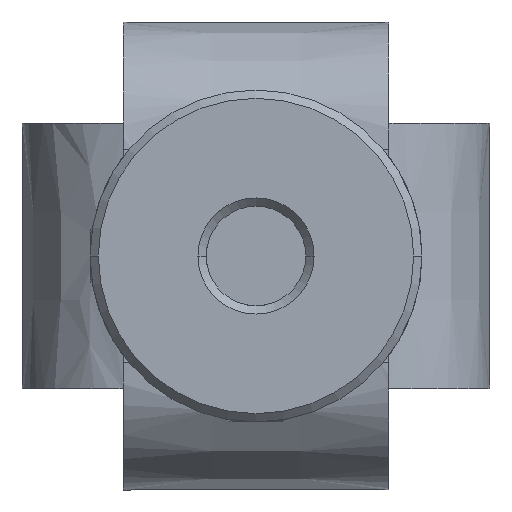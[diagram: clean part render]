
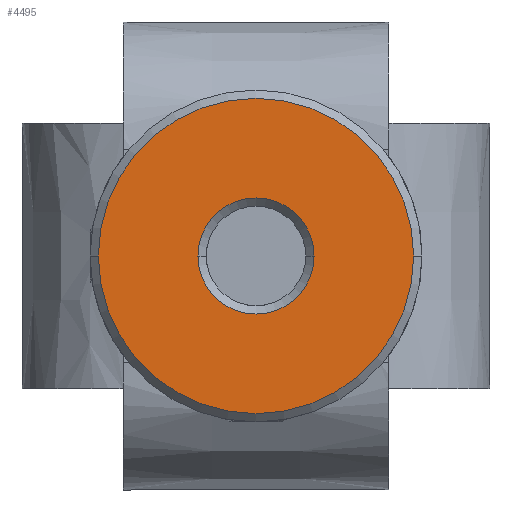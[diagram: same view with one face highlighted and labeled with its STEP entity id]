
A CAD part, front view. The second image highlights one B-rep face of the part: STEP entity #4495.
In plain terms, the highlighted planar face has unit normal (0, -1, 0).
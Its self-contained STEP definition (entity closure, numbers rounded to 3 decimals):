
#258 = EDGE_CURVE ( 'NONE', #3454, #1172, #6424, .T. ) ;
#283 = CARTESIAN_POINT ( 'NONE',  ( 0., -35.24, 0. ) ) ;
#347 = DIRECTION ( 'NONE',  ( -1., 0., 0. ) ) ;
#407 = ORIENTED_EDGE ( 'NONE', *, *, #6069, .T. ) ;
#814 = DIRECTION ( 'NONE',  ( 0., -1., 0. ) ) ;
#1172 = VERTEX_POINT ( 'NONE', #5882 ) ;
#1221 = CIRCLE ( 'NONE', #7772, 9.5 ) ;
#1606 = VERTEX_POINT ( 'NONE', #1698 ) ;
#1698 = CARTESIAN_POINT ( 'NONE',  ( 3.5, -35.24, 0. ) ) ;
#1772 = AXIS2_PLACEMENT_3D ( 'NONE', #7106, #3586, #4224 ) ;
#1790 = FACE_BOUND ( 'NONE', #5583, .T. ) ;
#2095 = DIRECTION ( 'NONE',  ( -1., 0., 0. ) ) ;
#2517 = CIRCLE ( 'NONE', #3149, 3.5 ) ;
#2599 = ORIENTED_EDGE ( 'NONE', *, *, #6454, .T. ) ;
#2720 = DIRECTION ( 'NONE',  ( 0., -1., 0. ) ) ;
#2771 = CARTESIAN_POINT ( 'NONE',  ( 9.5, -35.24, 0. ) ) ;
#2919 = PLANE ( 'NONE',  #1772 ) ;
#2990 = CARTESIAN_POINT ( 'NONE',  ( 0., -35.24, 0. ) ) ;
#3149 = AXIS2_PLACEMENT_3D ( 'NONE', #2990, #7180, #3630 ) ;
#3282 = CARTESIAN_POINT ( 'NONE',  ( -3.5, -35.24, 0. ) ) ;
#3454 = VERTEX_POINT ( 'NONE', #2771 ) ;
#3586 = DIRECTION ( 'NONE',  ( 0., -1., 0. ) ) ;
#3630 = DIRECTION ( 'NONE',  ( -1., 0., 0. ) ) ;
#3650 = EDGE_CURVE ( 'NONE', #1172, #3454, #1221, .T. ) ;
#3749 = VERTEX_POINT ( 'NONE', #3282 ) ;
#3904 = CARTESIAN_POINT ( 'NONE',  ( 0., -35.24, 0. ) ) ;
#4060 = CIRCLE ( 'NONE', #6886, 3.5 ) ;
#4224 = DIRECTION ( 'NONE',  ( -1., 0., 0. ) ) ;
#4407 = DIRECTION ( 'NONE',  ( 0., 1., 0. ) ) ;
#4495 = ADVANCED_FACE ( 'NONE', ( #1790, #6838 ), #2919, .T. ) ;
#4935 = CARTESIAN_POINT ( 'NONE',  ( 0., -35.24, 0. ) ) ;
#5075 = AXIS2_PLACEMENT_3D ( 'NONE', #3904, #2720, #347 ) ;
#5558 = DIRECTION ( 'NONE',  ( -1., 0., 0. ) ) ;
#5583 = EDGE_LOOP ( 'NONE', ( #407, #2599 ) ) ;
#5882 = CARTESIAN_POINT ( 'NONE',  ( -9.5, -35.24, 0. ) ) ;
#6069 = EDGE_CURVE ( 'NONE', #3749, #1606, #2517, .T. ) ;
#6115 = ORIENTED_EDGE ( 'NONE', *, *, #258, .T. ) ;
#6424 = CIRCLE ( 'NONE', #5075, 9.5 ) ;
#6454 = EDGE_CURVE ( 'NONE', #1606, #3749, #4060, .T. ) ;
#6838 = FACE_OUTER_BOUND ( 'NONE', #6926, .T. ) ;
#6886 = AXIS2_PLACEMENT_3D ( 'NONE', #4935, #4407, #5558 ) ;
#6926 = EDGE_LOOP ( 'NONE', ( #6115, #7357 ) ) ;
#7106 = CARTESIAN_POINT ( 'NONE',  ( 0., -35.24, 0. ) ) ;
#7180 = DIRECTION ( 'NONE',  ( 0., 1., 0. ) ) ;
#7357 = ORIENTED_EDGE ( 'NONE', *, *, #3650, .T. ) ;
#7772 = AXIS2_PLACEMENT_3D ( 'NONE', #283, #814, #2095 ) ;
